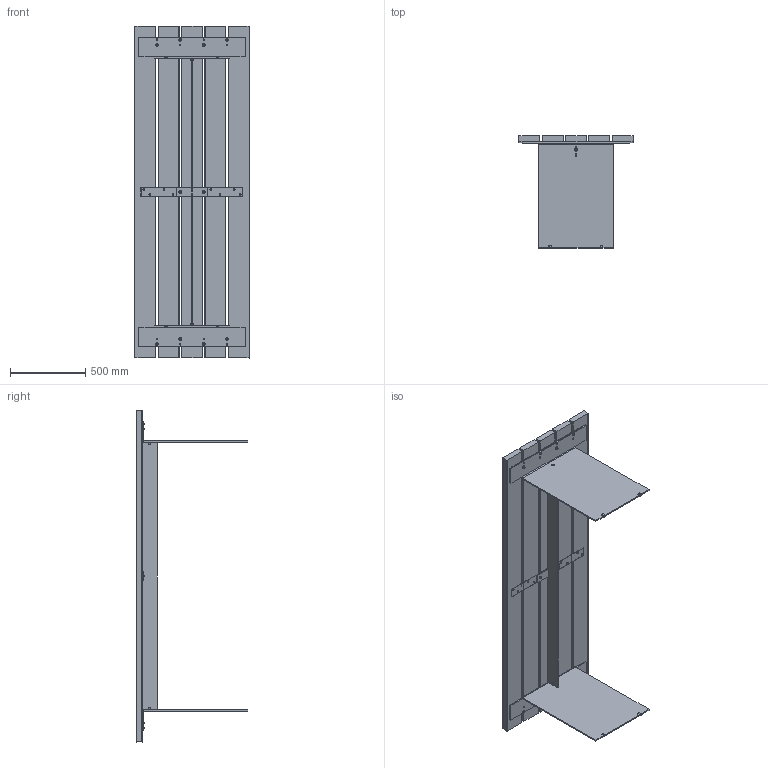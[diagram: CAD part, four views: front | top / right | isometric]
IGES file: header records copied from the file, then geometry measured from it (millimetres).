
Start section: SolidWorks IGES file using analytic representation for surfaces
Global section: file name: C:\SANTACOLE_PDM\Proyectos Catálogo\PROD-P10_022 -- BANCAL\6_Técnico comercial\3D WEB\Mesa Bancal.IGS; native system: SolidWorks 2013; preprocessor: SolidWorks 2013; author: jordi.munoz; date: 150409.165429; units: millimetre
Bounding box: 760.2 x 740 x 2200 mm (x, y, z)
Volume: 118799007.3 mm3; surface area: 9715925.4 mm2
Topology: 64 solids, 64 shells, 2625 faces, 6794 edges, 4322 vertices
Faces by surface type: plane 1418, revolution 935, bspline 272
